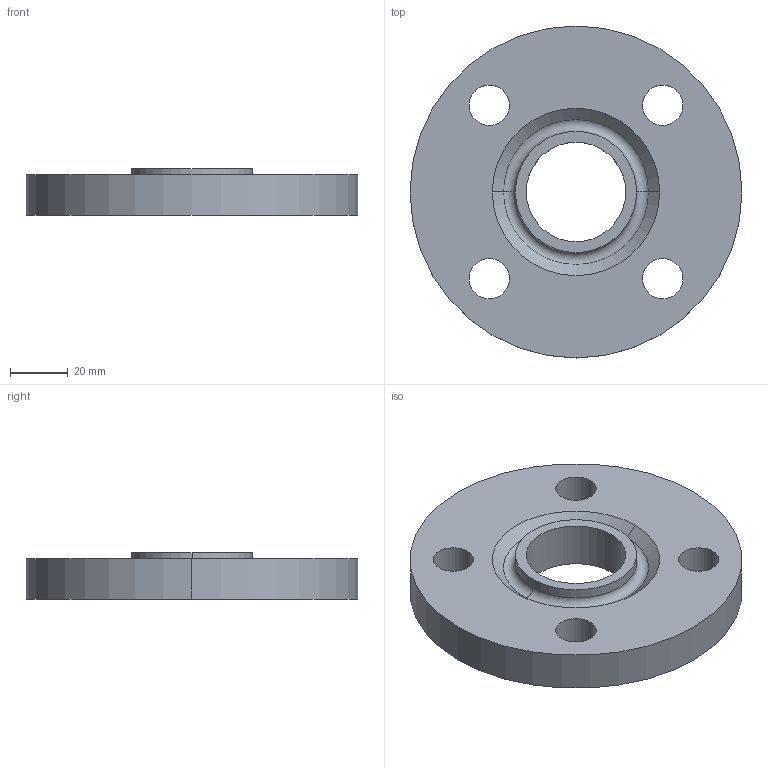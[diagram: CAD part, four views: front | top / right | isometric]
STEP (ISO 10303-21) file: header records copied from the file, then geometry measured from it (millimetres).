
FILE_DESCRIPTION (( 'STEP AP214' ), '1' );
FILE_NAME ('PN40 DN25 Type 01 - Type H Face.STEP', '2018-12-29T20:37:39', ( '' ), ( '' ), 'SwSTEP 2.0', 'SolidWorks 2019', '' );
FILE_SCHEMA (( 'AUTOMOTIVE_DESIGN' ));
Length unit declared in the file: millimetre
Products named in the file (1): PN40 DN25 Type 01 - Type H Face
Bounding box: 115 x 115 x 16 mm (x, y, z)
Volume: 121354.8 mm3; surface area: 27820.7 mm2
Topology: 1 solids, 1 shells, 21 faces, 50 edges, 32 vertices
Faces by surface type: cylinder 14, plane 3, torus 2, cone 2
Entity records: 680 total; most frequent: DIRECTION 128, CARTESIAN_POINT 104, ORIENTED_EDGE 100, AXIS2_PLACEMENT_3D 56, EDGE_CURVE 50, CIRCLE 34, VERTEX_POINT 32, EDGE_LOOP 32
